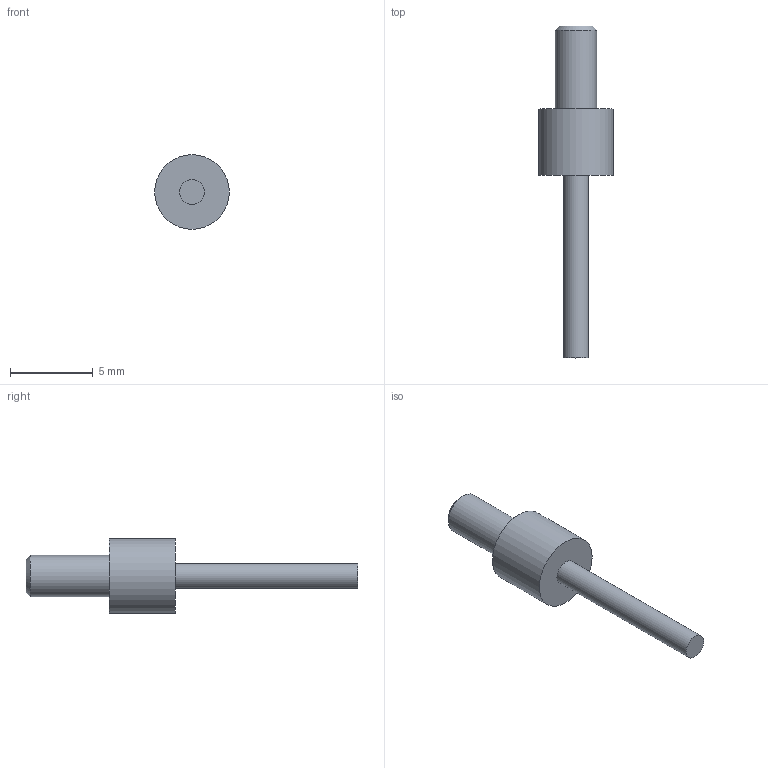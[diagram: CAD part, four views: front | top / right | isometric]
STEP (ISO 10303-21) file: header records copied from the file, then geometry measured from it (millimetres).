
FILE_DESCRIPTION( ( 'STEP AP214' ), '1' );
FILE_NAME( 'N:/Engineering/CAD_Solid/LVDT/Zubehör/Tastkopf_05.stp', '2011-12-12T13:59:57', ( ' ' ), ( ' ' ), 'XStep 1.0', ' ', ' ' );
FILE_SCHEMA( ( 'CONFIG_CONTROL_DESIGN) ( )' ) );
Length unit declared in the file: metre
Products named in the file (1): 1
Bounding box: 4.5 x 20 x 4.5 mm (x, y, z)
Volume: 107.4 mm3; surface area: 178.2 mm2
Topology: 1 solids, 1 shells, 8 faces, 11 edges, 7 vertices
Faces by surface type: plane 4, cylinder 3, cone 1
Full cylindrical faces by diameter (mm): 1.5 x1, 2.5 x1, 4.5 x1
Entity records: 234 total; most frequent: DIRECTION 32, CARTESIAN_POINT 23, AXIS2_PLACEMENT_3D 16, EDGE_LOOP 14, ORIENTED_EDGE 14, FACE_OUTER_BOUND 11, STYLED_ITEM 8, PRESENTATION_STYLE_ASSIGNMENT 8
